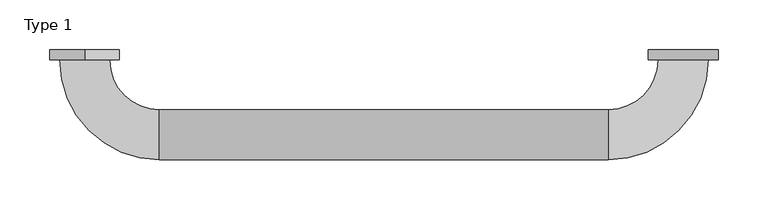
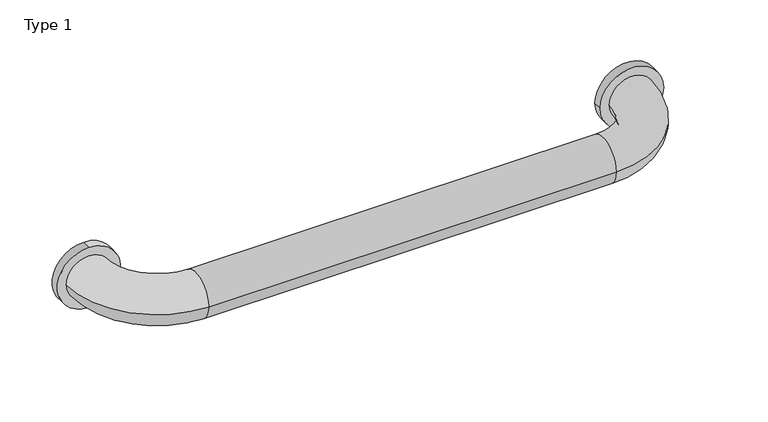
"""IFC4 building model written with IfcOpenShell, lengths in millimetres: proxy geometry, BIMHealth-Grab_Rail_Horizontal-LOD2A-v1 : Type 1."""

from ifc_helpers import new_model, si_unit, point, frame, frame_2d, origin, place, context, project, spatial, circle_curve, ellipse_curve, trimmed, segment, composite_curve, outline, extrude, source, transform, mapped, element, save
from ifc_brep_helpers import plane_surface, cylinder_surface, revolved_surface, advanced_brep


def type_1_f76a5bbc(model_context):
    return source(origin(), model_context, "Body", "SolidModel", [
        advanced_brep(
        [(-100.0, -160.0, 680.0), (350.0, -160.0, 680.0), (350.0, -110.0, 680.0), (-100.0, -110.0, 680.0), (-150.0, -60.0, 680.0), (-200.0, -60.0, 680.0), (400.0, -60.0, 680.0), (450.0, -60.0, 680.0)],
        [
            (0, 1),
            (1, 2, circle_curve(frame((350.0, -135.0, 680.0), z_axis=(-1.0, 0.0, 0.0), x_axis=(0.0, -1.0, 0.0)), 25.0)),
            (2, 3),
            (3, 0, circle_curve(frame((-100.0, -135.0, 680.0), z_axis=(1.0, 0.0, 0.0), x_axis=(0.0, -1.0, 0.0)), 25.0)),
            (2, 1, circle_curve(frame((350.0, -135.0, 680.0), z_axis=(-1.0, 0.0, 0.0), x_axis=(0.0, -1.0, 0.0)), 25.0)),
            (0, 3, circle_curve(frame((-100.0, -135.0, 680.0), z_axis=(1.0, 0.0, 0.0), x_axis=(0.0, -1.0, 0.0)), 25.0)),
            (4, 5, circle_curve(frame((-175.0, -60.0, 680.0), z_axis=(0.0, 1.0, 0.0), x_axis=(-1.0, 0.0, 0.0)), 25.0)),
            (5, 4, circle_curve(frame((-175.0, -60.0, 680.0), z_axis=(0.0, 1.0, 0.0), x_axis=(-1.0, 0.0, 0.0)), 25.0)),
            (3, 4, circle_curve(frame((-100.0, -60.0, 680.0), z_axis=(0.0, 0.0, -1.0), x_axis=(-1.0, 0.0, 0.0)), 50.0)),
            (5, 0, circle_curve(frame((-100.0, -60.0, 680.0), z_axis=(0.0, 0.0, 1.0), x_axis=(-1.0, 0.0, 0.0)), 100.0)),
            (6, 7, circle_curve(frame((425.0, -60.0, 680.0), z_axis=(0.0, 1.0, 0.0), x_axis=(1.0, 0.0, 0.0)), 25.0)),
            (7, 6, circle_curve(frame((425.0, -60.0, 680.0), z_axis=(0.0, 1.0, 0.0), x_axis=(1.0, 0.0, 0.0)), 25.0)),
            (6, 2, circle_curve(frame((350.0, -60.0, 680.0), z_axis=(0.0, 0.0, -1.0), x_axis=(0.0, -1.0, 0.0)), 50.0)),
            (1, 7, circle_curve(frame((350.0, -60.0, 680.0), z_axis=(0.0, 0.0, 1.0), x_axis=(0.0, -1.0, 0.0)), 100.0)),
        ],
        [
            cylinder_surface(frame((-100.0, -135.0, 680.0), z_axis=(-1.0, 0.0, 0.0), x_axis=(0.0, -1.0, 0.0)), 25.0),
            plane_surface(frame((-175.0, -60.0, 680.0), z_axis=(0.0, 1.0, 0.0), x_axis=(0.0, 0.0, 1.0))),
            revolved_surface(trimmed(ellipse_curve(frame((-175.0, -60.0, 680.0), z_axis=(0.0, -1.0, 0.0), x_axis=(-1.0, 0.0, 0.0)), 25.0, 25.0), [point((-150.0, -60.0, 680.0))], [point((-200.0, -60.0, 680.0))], True, "CARTESIAN"), (-100.0, -60.0, 680.0), (0.0, 0.0, -1.0)),
            revolved_surface(trimmed(ellipse_curve(frame((-175.0, -60.0, 680.0), z_axis=(0.0, -1.0, 0.0), x_axis=(-1.0, 0.0, 0.0)), 25.0, 25.0), [point((-200.0, -60.0, 680.0))], [point((-150.0, -60.0, 680.0))], True, "CARTESIAN"), (-100.0, -60.0, 680.0), (0.0, 0.0, -1.0)),
            plane_surface(frame((425.0, -60.0, 680.0), z_axis=(0.0, 1.0, 0.0), x_axis=(0.0, 0.0, 1.0))),
            revolved_surface(trimmed(ellipse_curve(frame((350.0, -135.0, 680.0), z_axis=(1.0, 0.0, 0.0), x_axis=(0.0, -1.0, 0.0)), 25.0, 25.0), [point((350.0, -110.0, 680.0))], [point((350.0, -160.0, 680.0))], True, "CARTESIAN"), (350.0, -60.0, 680.0), (0.0, 0.0, -1.0)),
            revolved_surface(trimmed(ellipse_curve(frame((350.0, -135.0, 680.0), z_axis=(1.0, 0.0, 0.0), x_axis=(0.0, -1.0, 0.0)), 25.0, 25.0), [point((350.0, -160.0, 680.0))], [point((350.0, -110.0, 680.0))], True, "CARTESIAN"), (350.0, -60.0, 680.0), (0.0, 0.0, -1.0)),
        ],
        [
            (0, [[1, 2, 3, 4]]),
            (0, [[-3, 5, -1, 6]]),
            (1, [[7, 8]]),
            (2, [[-4, 9, -8, 10]]),
            (3, [[-6, -10, -7, -9]]),
            (4, [[11, 12]]),
            (5, [[-11, 13, -2, 14]]),
            (6, [[-12, -14, -5, -13]]),
        ],
    ),
        extrude(outline(composite_curve([segment(trimmed(circle_curve(frame_2d((680.0, 425.0)), 35.0), [point((680.0, 460.0))], [point((680.0, 390.0))], False, "CARTESIAN"), True, "CONTINUOUS"), segment(trimmed(circle_curve(frame_2d((680.0, 425.0)), 35.0), [point((680.0, 390.0))], [point((680.0, 460.0))], False, "CARTESIAN"), True, "CONTINUOUS")], self_intersect=False)), frame((0.0, -60.0, 0.0), z_axis=(0.0, 1.0, 0.0), x_axis=(0.0, 0.0, 1.0)), (0.0, 0.0, 1.0), 10.0),
        extrude(outline(composite_curve([segment(trimmed(circle_curve(frame_2d((680.0, -175.0)), 35.0), [point((715.0, -175.0))], [point((645.0, -175.0))], False, "CARTESIAN"), True, "CONTINUOUS"), segment(trimmed(circle_curve(frame_2d((680.0, -175.0)), 35.0), [point((645.0, -175.0))], [point((715.0, -175.0))], False, "CARTESIAN"), True, "CONTINUOUS")], self_intersect=False)), frame((0.0, -60.0, 0.0), z_axis=(0.0, 1.0, 0.0), x_axis=(0.0, 0.0, 1.0)), (0.0, 0.0, 1.0), 10.0),
    ])


if __name__ == "__main__":
    model = new_model("IFC4")
    model_context = context("Model", 3, world=origin())
    ifc_project = project(units=[si_unit("LENGTHUNIT", "METRE", prefix="MILLI")], contexts=[model_context])
    site = spatial("IfcSite", under=ifc_project)
    building = spatial("IfcBuilding", under=site)
    placement = place(None, origin())
    type_1_shape = type_1_f76a5bbc(model_context)
    element("IfcBuildingElementProxy", 1, Name="BIMHealth-Grab_Rail_Horizontal-LOD2A-v1 : Type 1", ObjectType="BIMHealth-Grab_Rail_Horizontal-LOD2A-v1 : Type 1", at=placement, inside=building, context=model_context, shape_type="MappedRepresentation", body=[
        mapped(type_1_shape, transform((0.0, 0.0, 0.0), x_axis=(1.0, 0.0, 0.0), y_axis=(0.0, 1.0, 0.0), z_axis=(0.0, 0.0, 1.0))),
    ])
    save(model, "model.ifc")
